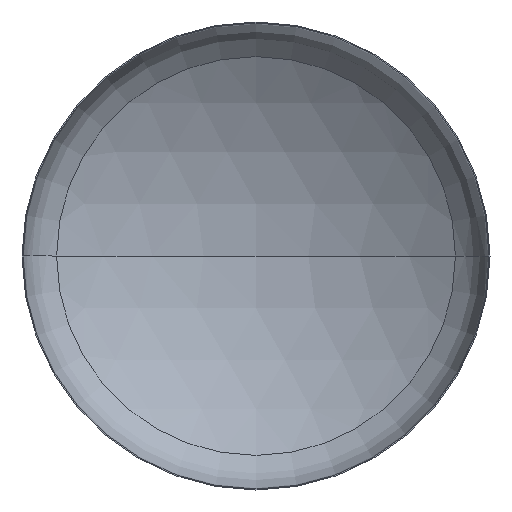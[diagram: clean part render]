
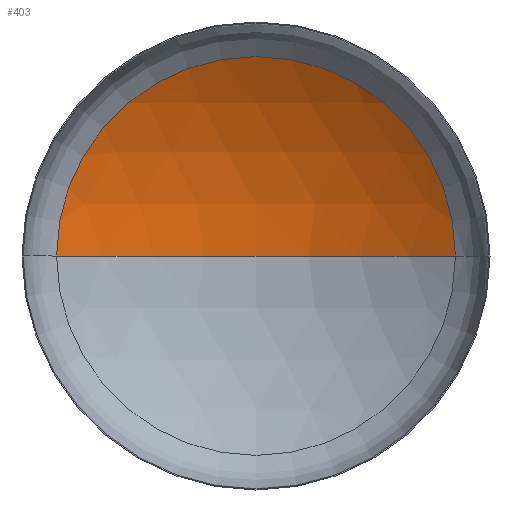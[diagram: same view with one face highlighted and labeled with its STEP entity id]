
A CAD part, front view. The second image highlights one B-rep face of the part: STEP entity #403.
In plain terms, the highlighted spherical face has radius 2240 mm.
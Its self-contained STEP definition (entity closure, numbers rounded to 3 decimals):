
#2 = AXIS2_PLACEMENT_3D ( 'NONE', #87, #346, #388 ) ;
#3 = AXIS2_PLACEMENT_3D ( 'NONE', #226, #228, #75 ) ;
#12 = EDGE_LOOP ( 'NONE', ( #27, #128, #143 ) ) ;
#14 = AXIS2_PLACEMENT_3D ( 'NONE', #105, #108, #109 ) ;
#19 = CARTESIAN_POINT ( 'NONE',  ( -1193.017, 383.939, 0. ) ) ;
#27 = ORIENTED_EDGE ( 'NONE', *, *, #316, .F. ) ;
#44 = VERTEX_POINT ( 'NONE', #298 ) ;
#75 = DIRECTION ( 'NONE',  ( 1., 0., 0. ) ) ;
#87 = CARTESIAN_POINT ( 'NONE',  ( 0., -1511.928, 0. ) ) ;
#105 = CARTESIAN_POINT ( 'NONE',  ( 0., -1511.928, 0. ) ) ;
#108 = DIRECTION ( 'NONE',  ( 0., 0., 1. ) ) ;
#109 = DIRECTION ( 'NONE',  ( 1., 0., 0. ) ) ;
#112 = VERTEX_POINT ( 'NONE', #19 ) ;
#128 = ORIENTED_EDGE ( 'NONE', *, *, #343, .T. ) ;
#132 = CARTESIAN_POINT ( 'NONE',  ( 0., -1511.928, 0. ) ) ;
#143 = ORIENTED_EDGE ( 'NONE', *, *, #326, .T. ) ;
#226 = CARTESIAN_POINT ( 'NONE',  ( 0., 383.939, 0. ) ) ;
#228 = DIRECTION ( 'NONE',  ( 0., -1., 0. ) ) ;
#252 = FACE_OUTER_BOUND ( 'NONE', #12, .T. ) ;
#268 = AXIS2_PLACEMENT_3D ( 'NONE', #132, #274, #273 ) ;
#273 = DIRECTION ( 'NONE',  ( -1., 0., 0. ) ) ;
#274 = DIRECTION ( 'NONE',  ( 0., 0., -1. ) ) ;
#298 = CARTESIAN_POINT ( 'NONE',  ( 1193.017, 383.939, 0. ) ) ;
#313 = CARTESIAN_POINT ( 'NONE',  ( 0., 728.072, 0. ) ) ;
#316 = EDGE_CURVE ( 'NONE', #342, #112, #405, .T. ) ;
#326 = EDGE_CURVE ( 'NONE', #44, #112, #402, .T. ) ;
#342 = VERTEX_POINT ( 'NONE', #313 ) ;
#343 = EDGE_CURVE ( 'NONE', #342, #44, #394, .T. ) ;
#346 = DIRECTION ( 'NONE',  ( 0., 0., -1. ) ) ;
#381 = SPHERICAL_SURFACE ( 'NONE', #268, 2240. ) ;
#388 = DIRECTION ( 'NONE',  ( -1., 0., 0. ) ) ;
#394 = CIRCLE ( 'NONE', #2, 2240. ) ;
#402 = CIRCLE ( 'NONE', #3, 1193.017 ) ;
#403 = ADVANCED_FACE ( 'NONE', ( #252 ), #381, .F. ) ;
#405 = CIRCLE ( 'NONE', #14, 2240. ) ;
